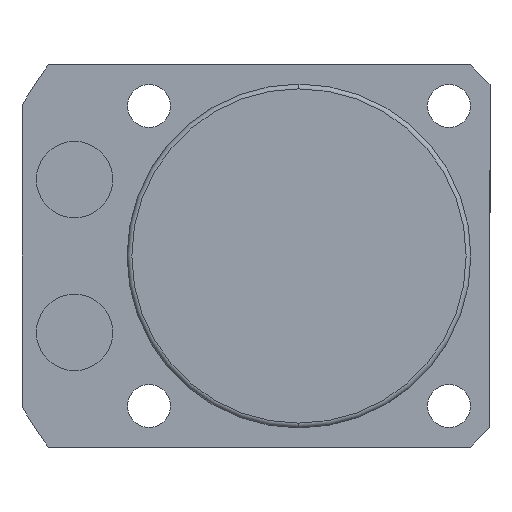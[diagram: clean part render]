
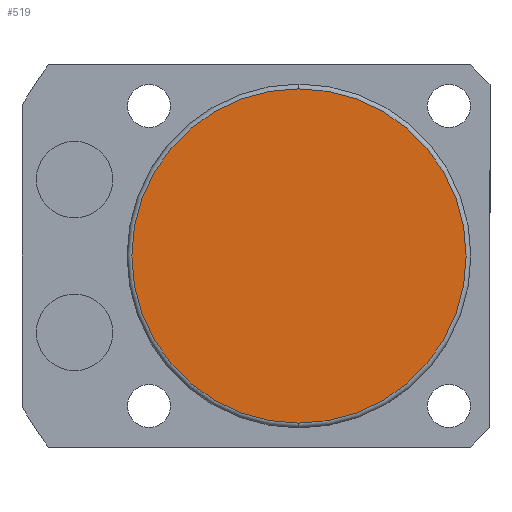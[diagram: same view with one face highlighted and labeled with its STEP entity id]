
A CAD part, front view. The second image highlights one B-rep face of the part: STEP entity #519.
In plain terms, the highlighted planar face has unit normal (0, -1, 0).
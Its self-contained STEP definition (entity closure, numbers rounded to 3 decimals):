
#60 = AXIS2_PLACEMENT_3D ( 'NONE', #2670, #691, #3052 ) ;
#103 = DIRECTION ( 'NONE',  ( 0., -1., 0. ) ) ;
#448 = EDGE_CURVE ( 'NONE', #526, #1259, #3842, .T. ) ;
#516 = AXIS2_PLACEMENT_3D ( 'NONE', #2405, #103, #3232 ) ;
#519 = ADVANCED_FACE ( 'NONE', ( #1633 ), #1151, .T. ) ;
#526 = VERTEX_POINT ( 'NONE', #2748 ) ;
#691 = DIRECTION ( 'NONE',  ( 0., -1., 0. ) ) ;
#1098 = CARTESIAN_POINT ( 'NONE',  ( 0., -130.5, 17.5 ) ) ;
#1151 = PLANE ( 'NONE',  #4167 ) ;
#1259 = VERTEX_POINT ( 'NONE', #1098 ) ;
#1633 = FACE_OUTER_BOUND ( 'NONE', #4792, .T. ) ;
#1950 = EDGE_CURVE ( 'NONE', #1259, #526, #3756, .T. ) ;
#2405 = CARTESIAN_POINT ( 'NONE',  ( 0., -130.5, 0. ) ) ;
#2670 = CARTESIAN_POINT ( 'NONE',  ( 0., -130.5, 0. ) ) ;
#2748 = CARTESIAN_POINT ( 'NONE',  ( 0., -130.5, -17.5 ) ) ;
#3052 = DIRECTION ( 'NONE',  ( 0., 0., -1. ) ) ;
#3232 = DIRECTION ( 'NONE',  ( 0., 0., -1. ) ) ;
#3484 = CARTESIAN_POINT ( 'NONE',  ( 0., -130.5, 0. ) ) ;
#3503 = DIRECTION ( 'NONE',  ( 0., -1., 0. ) ) ;
#3541 = DIRECTION ( 'NONE',  ( 0., 0., -1. ) ) ;
#3607 = ORIENTED_EDGE ( 'NONE', *, *, #1950, .T. ) ;
#3709 = ORIENTED_EDGE ( 'NONE', *, *, #448, .T. ) ;
#3756 = CIRCLE ( 'NONE', #516, 17.5 ) ;
#3842 = CIRCLE ( 'NONE', #60, 17.5 ) ;
#4167 = AXIS2_PLACEMENT_3D ( 'NONE', #3484, #3503, #3541 ) ;
#4792 = EDGE_LOOP ( 'NONE', ( #3709, #3607 ) ) ;
